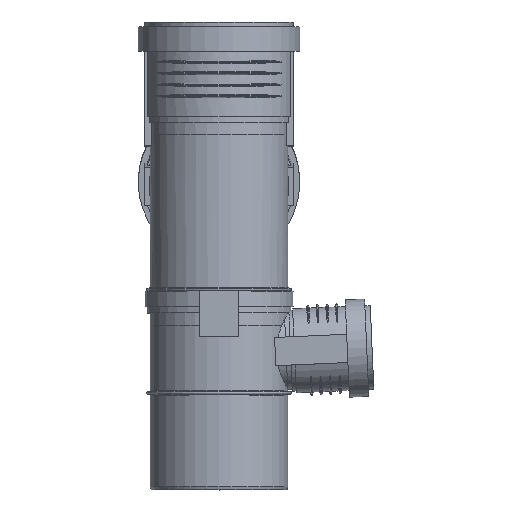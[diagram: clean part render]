
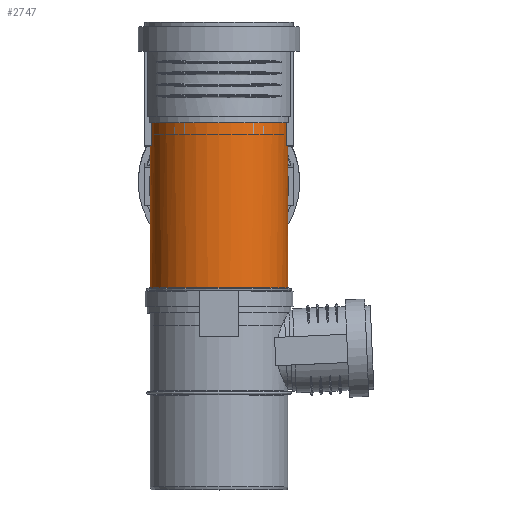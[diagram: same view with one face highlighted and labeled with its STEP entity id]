
A CAD part, top view. The second image highlights one B-rep face of the part: STEP entity #2747.
In plain terms, the highlighted cylindrical face has radius 45.1 mm (diameter 90.2 mm), a full revolution.
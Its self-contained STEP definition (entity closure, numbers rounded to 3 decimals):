
#340=B_SPLINE_CURVE_WITH_KNOTS($,3,(#5373,#5374,#5375,#5376,#5377,#5378,
#5379,#5380,#5381,#5382,#5383,#5384,#5385,#5386,#5387,#5388,#5389,#5390,
#5391,#5392,#5393,#5394,#5395,#5396,#5397,#5398,#5399,#5400,#5401,#5402,
#5403,#5404,#5405,#5406,#5407,#5408,#5409,#5410,#5411,#5412,#5413,#5414,
#5415,#5416,#5417,#5418,#5419,#5420,#5421,#5422,#5423,#5424,#5425,#5426),
 .UNSPECIFIED.,.F.,.F.,(4,2,2,2,2,2,2,2,2,2,2,2,2,2,2,2,2,2,2,2,2,2,2,2,
2,2,4),(0.,1.704,3.086,3.711,4.248,
4.999,5.726,6.81,8.878,10.793,
12.337,13.5,14.195,14.805,15.577,
16.831,18.13,20.217,21.528,22.465,
23.252,23.991,24.586,25.121,25.957,
27.165,29.079),.UNSPECIFIED.);
#533=CYLINDRICAL_SURFACE($,#3014,45.1);
#613=FACE_BOUND($,#949,.T.);
#740=FACE_OUTER_BOUND($,#948,.T.);
#948=EDGE_LOOP($,(#2202));
#949=EDGE_LOOP($,(#2203,#2204));
#1123=CIRCLE($,#3015,45.1);
#1124=CIRCLE($,#3016,45.1);
#1329=VERTEX_POINT($,#5355);
#1330=VERTEX_POINT($,#5356);
#1331=VERTEX_POINT($,#5428);
#1644=EDGE_CURVE($,#1330,#1329,#340,.T.);
#1645=EDGE_CURVE($,#1331,#1331,#1123,.T.);
#1646=EDGE_CURVE($,#1329,#1330,#1124,.T.);
#2202=ORIENTED_EDGE($,*,*,#1645,.F.);
#2203=ORIENTED_EDGE($,*,*,#1646,.T.);
#2204=ORIENTED_EDGE($,*,*,#1644,.T.);
#2747=ADVANCED_FACE($,(#740,#613),#533,.T.);
#3014=AXIS2_PLACEMENT_3D($,#5427,#3598,#3599);
#3015=AXIS2_PLACEMENT_3D($,#5429,#3600,#3601);
#3016=AXIS2_PLACEMENT_3D($,#5430,#3602,#3603);
#3598=DIRECTION('center_axis',(0.,1.,0.));
#3599=DIRECTION('ref_axis',(-1.,0.,0.));
#3600=DIRECTION('center_axis',(0.,1.,0.));
#3601=DIRECTION('ref_axis',(-1.,0.,0.));
#3602=DIRECTION('center_axis',(0.,1.,0.));
#3603=DIRECTION('ref_axis',(-1.,0.,0.));
#5355=CARTESIAN_POINT('',(39.957,64.1,-20.915));
#5356=CARTESIAN_POINT('',(39.957,64.1,20.915));
#5373=CARTESIAN_POINT('Ctrl Pts',(39.957,64.1,20.915));
#5374=CARTESIAN_POINT('Ctrl Pts',(37.356,64.993,25.884));
#5375=CARTESIAN_POINT('Ctrl Pts',(33.854,66.188,30.288));
#5376=CARTESIAN_POINT('Ctrl Pts',(26.476,69.061,36.775));
#5377=CARTESIAN_POINT('Ctrl Pts',(23.146,70.488,38.841));
#5378=CARTESIAN_POINT('Ctrl Pts',(18.967,72.848,40.944));
#5379=CARTESIAN_POINT('Ctrl Pts',(17.662,73.677,41.518));
#5380=CARTESIAN_POINT('Ctrl Pts',(15.393,75.463,42.407));
#5381=CARTESIAN_POINT('Ctrl Pts',(14.405,76.388,42.747));
#5382=CARTESIAN_POINT('Ctrl Pts',(12.324,78.936,43.402));
#5383=CARTESIAN_POINT('Ctrl Pts',(11.44,80.578,43.629));
#5384=CARTESIAN_POINT('Ctrl Pts',(10.292,84.245,43.914));
#5385=CARTESIAN_POINT('Ctrl Pts',(10.044,86.147,43.967));
#5386=CARTESIAN_POINT('Ctrl Pts',(9.896,90.838,44.001));
#5387=CARTESIAN_POINT('Ctrl Pts',(10.202,94.236,43.94));
#5388=CARTESIAN_POINT('Ctrl Pts',(12.682,106.553,43.313));
#5389=CARTESIAN_POINT('Ctrl Pts',(16.039,116.212,42.404));
#5390=CARTESIAN_POINT('Ctrl Pts',(24.001,134.489,38.423));
#5391=CARTESIAN_POINT('Ctrl Pts',(28.208,142.543,35.629));
#5392=CARTESIAN_POINT('Ctrl Pts',(35.277,154.991,28.456));
#5393=CARTESIAN_POINT('Ctrl Pts',(38.02,159.417,24.703));
#5394=CARTESIAN_POINT('Ctrl Pts',(41.748,165.275,17.421));
#5395=CARTESIAN_POINT('Ctrl Pts',(43.117,167.351,13.845));
#5396=CARTESIAN_POINT('Ctrl Pts',(44.546,169.495,7.46));
#5397=CARTESIAN_POINT('Ctrl Pts',(44.899,170.018,4.97));
#5398=CARTESIAN_POINT('Ctrl Pts',(45.156,170.4,0.162));
#5399=CARTESIAN_POINT('Ctrl Pts',(45.107,170.328,-2.085));
#5400=CARTESIAN_POINT('Ctrl Pts',(44.623,169.608,-7.128));
#5401=CARTESIAN_POINT('Ctrl Pts',(44.096,168.824,-9.827));
#5402=CARTESIAN_POINT('Ctrl Pts',(42.193,165.947,-16.497));
#5403=CARTESIAN_POINT('Ctrl Pts',(40.425,163.249,-20.443));
#5404=CARTESIAN_POINT('Ctrl Pts',(35.801,155.794,-27.781));
#5405=CARTESIAN_POINT('Ctrl Pts',(33.163,151.353,-30.767));
#5406=CARTESIAN_POINT('Ctrl Pts',(26.428,139.184,-36.979));
#5407=CARTESIAN_POINT('Ctrl Pts',(22.226,130.762,-39.437));
#5408=CARTESIAN_POINT('Ctrl Pts',(16.439,116.768,-42.069));
#5409=CARTESIAN_POINT('Ctrl Pts',(14.378,111.118,-42.779));
#5410=CARTESIAN_POINT('Ctrl Pts',(11.645,101.513,-43.587));
#5411=CARTESIAN_POINT('Ctrl Pts',(10.632,97.124,-43.831));
#5412=CARTESIAN_POINT('Ctrl Pts',(9.829,89.513,-44.017));
#5413=CARTESIAN_POINT('Ctrl Pts',(9.942,86.944,-43.992));
#5414=CARTESIAN_POINT('Ctrl Pts',(10.596,82.98,-43.839));
#5415=CARTESIAN_POINT('Ctrl Pts',(11.18,81.164,-43.704));
#5416=CARTESIAN_POINT('Ctrl Pts',(12.911,78.13,-43.22));
#5417=CARTESIAN_POINT('Ctrl Pts',(13.871,76.957,-42.93));
#5418=CARTESIAN_POINT('Ctrl Pts',(15.961,74.965,-42.194));
#5419=CARTESIAN_POINT('Ctrl Pts',(17.041,74.143,-41.774));
#5420=CARTESIAN_POINT('Ctrl Pts',(19.871,72.265,-40.53));
#5421=CARTESIAN_POINT('Ctrl Pts',(21.685,71.31,-39.598));
#5422=CARTESIAN_POINT('Ctrl Pts',(26.007,69.255,-36.967));
#5423=CARTESIAN_POINT('Ctrl Pts',(28.498,68.26,-35.097));
#5424=CARTESIAN_POINT('Ctrl Pts',(34.445,65.991,-29.537));
#5425=CARTESIAN_POINT('Ctrl Pts',(37.577,64.917,-25.462));
#5426=CARTESIAN_POINT('Ctrl Pts',(39.957,64.1,-20.915));
#5427=CARTESIAN_POINT('Origin',(0.,120.53,0.));
#5428=CARTESIAN_POINT('',(-45.1,176.96,0.));
#5429=CARTESIAN_POINT('Origin',(0.,176.96,0.));
#5430=CARTESIAN_POINT('Origin',(0.,64.1,0.));
